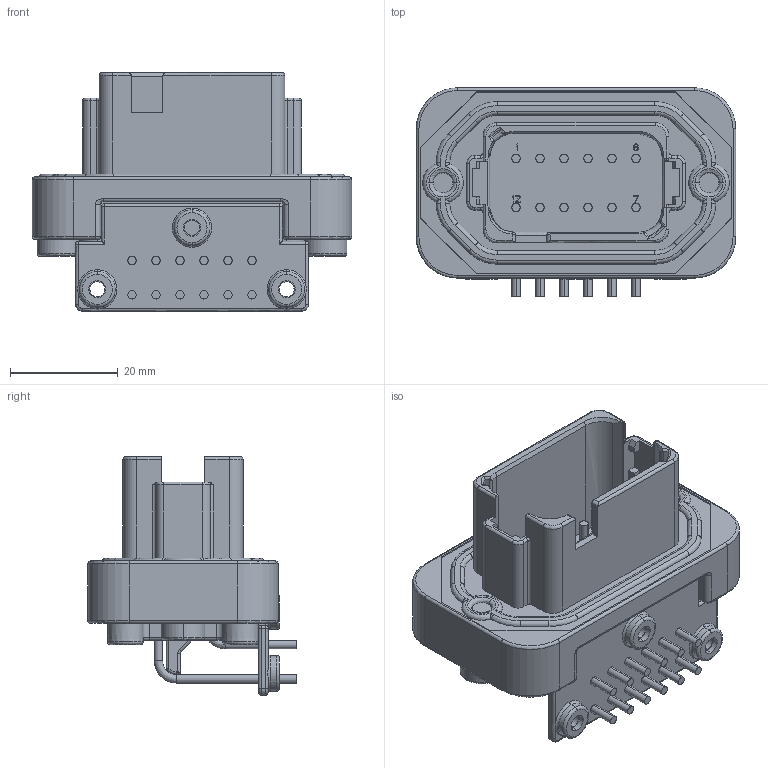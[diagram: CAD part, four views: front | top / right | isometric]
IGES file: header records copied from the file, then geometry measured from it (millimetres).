
Start section:  PTC IGES file: c-dt13-12pd-b016-99-3d.igs
Global section: file name: c-dt13-12pd-b016-99-3d.igs; native system: Pro/ENGINEER by Parametric Technology Corporation; preprocessor: 2010430; author: workeradm; organization: Unknown; units: millimetre
Bounding box: 59.21 x 38.58 x 44.2 mm (x, y, z)
Surface area: 15781.1 mm2 (no closed solid volume)
Topology: 0 solids, 0 shells, 793 faces, 3920 edges, 3920 vertices
Faces by surface type: revolution 471, bspline 322
